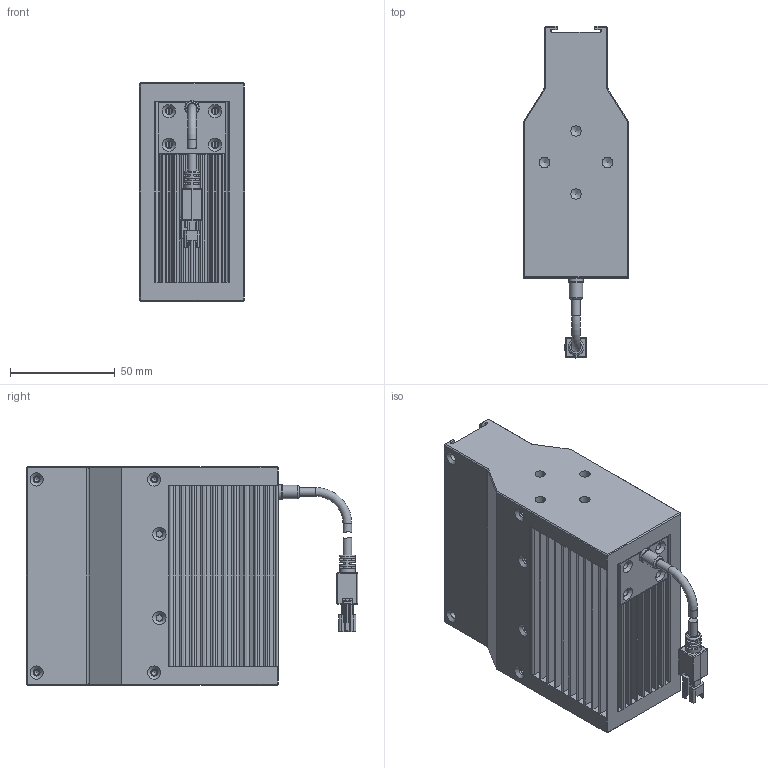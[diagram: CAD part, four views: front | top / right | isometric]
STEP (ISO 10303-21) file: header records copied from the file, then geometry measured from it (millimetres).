
FILE_DESCRIPTION (( 'STEP AP203' ), '1' );
FILE_NAME ('OPT-LSNL104-W-V1.0尨砩芞.STEP', '2025-02-17T08:43:15', ( '' ), ( '' ), 'SwSTEP 2.0', 'SolidWorks 2016', '' );
FILE_SCHEMA (( 'CONFIG_CONTROL_DESIGN' ));
Length unit declared in the file: millimetre
Products named in the file (1): OPT-LSNL104-W-V1.0尨砩芞
Bounding box: 50.02 x 158 x 104 mm (x, y, z)
Volume: 393519.3 mm3; surface area: 128647.6 mm2
Topology: 8 solids, 15 shells, 987 faces, 2716 edges, 1746 vertices
Faces by surface type: plane 590, cylinder 324, cone 44, bspline 21, torus 8
Full cylindrical faces by diameter (mm): 1.1 x2, 1.4 x2, 2.5 x10, 3 x8, 3.4 x16, 3.5 x1, 4.1 x4, 5 x8, 5.8 x1, 6.5 x1, 7 x1, 7.5 x1
Entity records: 33448 total; most frequent: CARTESIAN_POINT 9438, ORIENTED_EDGE 5100, DIRECTION 4660, EDGE_CURVE 2550, VERTEX_POINT 1690, VECTOR 1648, LINE 1648, AXIS2_PLACEMENT_3D 1506
